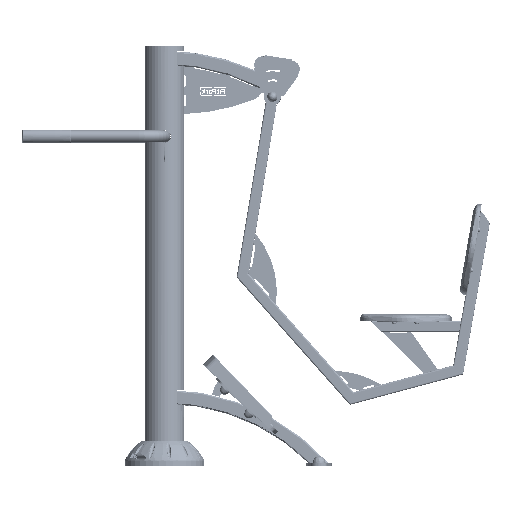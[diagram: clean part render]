
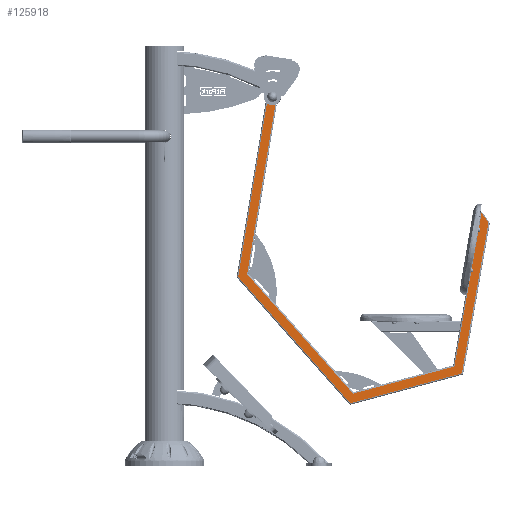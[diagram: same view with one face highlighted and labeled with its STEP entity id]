
A CAD part, top view. The second image highlights one B-rep face of the part: STEP entity #125918.
In plain terms, the highlighted planar face has unit normal (0, 0, 1).
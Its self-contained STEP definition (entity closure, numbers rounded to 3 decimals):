
#432 = EDGE_CURVE ( 'NONE', #122746, #137114, #36682, .T. ) ;
#1352 = ORIENTED_EDGE ( 'NONE', *, *, #70114, .F. ) ;
#5953 = DIRECTION ( 'NONE',  ( 0.574, -0.819, 0. ) ) ;
#6145 = ORIENTED_EDGE ( 'NONE', *, *, #183035, .T. ) ;
#10568 = CARTESIAN_POINT ( 'NONE',  ( 769.404, 135.216, 40. ) ) ;
#15678 = EDGE_CURVE ( 'NONE', #131311, #93771, #146992, .T. ) ;
#16449 = VECTOR ( 'NONE', #54313, 1000. ) ;
#17708 = VECTOR ( 'NONE', #78390, 1000. ) ;
#22450 = VERTEX_POINT ( 'NONE', #66280 ) ;
#22813 = VERTEX_POINT ( 'NONE', #142398 ) ;
#24603 = LINE ( 'NONE', #82799, #102516 ) ;
#25028 = EDGE_CURVE ( 'NONE', #115282, #122746, #80277, .T. ) ;
#27010 = DIRECTION ( 'NONE',  ( 0., 0., -1. ) ) ;
#28665 = CARTESIAN_POINT ( 'NONE',  ( 752.213, 37.721, 40. ) ) ;
#34532 = EDGE_CURVE ( 'NONE', #43307, #115282, #124682, .T. ) ;
#36682 = CIRCLE ( 'NONE', #158615, 30. ) ;
#39085 = CARTESIAN_POINT ( 'NONE',  ( 136.35, 1059.798, 40. ) ) ;
#39457 = DIRECTION ( 'NONE',  ( 1., 0., 0. ) ) ;
#40484 = CARTESIAN_POINT ( 'NONE',  ( 781.757, 32.512, 40. ) ) ;
#40943 = VECTOR ( 'NONE', #78873, 1000. ) ;
#41328 = DIRECTION ( 'NONE',  ( -1., 0., 0. ) ) ;
#43307 = VERTEX_POINT ( 'NONE', #48036 ) ;
#44408 = EDGE_LOOP ( 'NONE', ( #6145, #125350, #83490, #182128, #150460, #153349, #94523, #61790, #133545, #1352 ) ) ;
#47625 = LINE ( 'NONE', #119248, #139342 ) ;
#48036 = CARTESIAN_POINT ( 'NONE',  ( 401.687, 5.628, 40. ) ) ;
#53310 = CARTESIAN_POINT ( 'NONE',  ( 411.808, 39.398, 40. ) ) ;
#54313 = DIRECTION ( 'NONE',  ( -0.966, -0.259, 0. ) ) ;
#54684 = DIRECTION ( 'NONE',  ( 0., 0., 1. ) ) ;
#55720 = DIRECTION ( 'NONE',  ( 0.174, 0.985, 0. ) ) ;
#55841 = VERTEX_POINT ( 'NONE', #142872 ) ;
#59654 = EDGE_CURVE ( 'NONE', #22813, #137114, #24603, .T. ) ;
#59935 = CARTESIAN_POINT ( 'NONE',  ( 5.322, 451.538, 40. ) ) ;
#61790 = ORIENTED_EDGE ( 'NONE', *, *, #25028, .F. ) ;
#66275 = AXIS2_PLACEMENT_3D ( 'NONE', #157765, #27010, #41328 ) ;
#66280 = CARTESIAN_POINT ( 'NONE',  ( 795.629, 111.185, 40. ) ) ;
#68351 = EDGE_CURVE ( 'NONE', #93771, #131408, #151950, .T. ) ;
#69124 = VECTOR ( 'NONE', #86859, 1000. ) ;
#70114 = EDGE_CURVE ( 'NONE', #22450, #43307, #125952, .T. ) ;
#73100 = EDGE_CURVE ( 'NONE', #55841, #22813, #124952, .T. ) ;
#76581 = CARTESIAN_POINT ( 'NONE',  ( 861.114, 684.126, 40. ) ) ;
#78390 = DIRECTION ( 'NONE',  ( 0.163, 0.987, 0. ) ) ;
#78873 = DIRECTION ( 'NONE',  ( -0.664, 0.747, 0. ) ) ;
#80277 = LINE ( 'NONE', #179581, #17708 ) ;
#80921 = DIRECTION ( 'NONE',  ( 0.163, 0.987, 0. ) ) ;
#82799 = CARTESIAN_POINT ( 'NONE',  ( 37.257, 460.768, 40. ) ) ;
#83490 = ORIENTED_EDGE ( 'NONE', *, *, #15678, .F. ) ;
#86859 = DIRECTION ( 'NONE',  ( 0.174, 0.985, 0. ) ) ;
#93771 = VERTEX_POINT ( 'NONE', #123314 ) ;
#94412 = DIRECTION ( 'NONE',  ( -0.664, 0.747, 0. ) ) ;
#94523 = ORIENTED_EDGE ( 'NONE', *, *, #432, .F. ) ;
#101166 = CARTESIAN_POINT ( 'NONE',  ( 889.505, 643.58, 40. ) ) ;
#102516 = VECTOR ( 'NONE', #80921, 1000. ) ;
#107719 = DIRECTION ( 'NONE',  ( -0.966, -0.259, 0. ) ) ;
#110670 = CARTESIAN_POINT ( 'NONE',  ( 795.629, 111.185, 40. ) ) ;
#112903 = FACE_OUTER_BOUND ( 'NONE', #44408, .T. ) ;
#115282 = VERTEX_POINT ( 'NONE', #59935 ) ;
#119248 = CARTESIAN_POINT ( 'NONE',  ( 769.404, 135.216, 40. ) ) ;
#119908 = VECTOR ( 'NONE', #55720, 1000. ) ;
#122746 = VERTEX_POINT ( 'NONE', #123406 ) ;
#123314 = CARTESIAN_POINT ( 'NONE',  ( 865.17, 678.333, 40. ) ) ;
#123406 = CARTESIAN_POINT ( 'NONE',  ( 106.753, 1064.694, 40. ) ) ;
#124682 = LINE ( 'NONE', #168574, #40943 ) ;
#124952 = LINE ( 'NONE', #53310, #177742 ) ;
#125217 = EDGE_CURVE ( 'NONE', #131311, #55841, #47625, .T. ) ;
#125350 = ORIENTED_EDGE ( 'NONE', *, *, #68351, .F. ) ;
#125918 = ADVANCED_FACE ( 'NONE', ( #112903 ), #129137, .F. ) ;
#125952 = LINE ( 'NONE', #110670, #16449 ) ;
#129137 = PLANE ( 'NONE',  #66275 ) ;
#131311 = VERTEX_POINT ( 'NONE', #10568 ) ;
#131408 = VERTEX_POINT ( 'NONE', #101166 ) ;
#133545 = ORIENTED_EDGE ( 'NONE', *, *, #34532, .F. ) ;
#137114 = VERTEX_POINT ( 'NONE', #39085 ) ;
#139342 = VECTOR ( 'NONE', #107719, 1000. ) ;
#140640 = CARTESIAN_POINT ( 'NONE',  ( 125.792, 1087.878, 40. ) ) ;
#142398 = CARTESIAN_POINT ( 'NONE',  ( 37.257, 460.768, 40. ) ) ;
#142872 = CARTESIAN_POINT ( 'NONE',  ( 411.808, 39.398, 40. ) ) ;
#146992 = LINE ( 'NONE', #28665, #69124 ) ;
#150460 = ORIENTED_EDGE ( 'NONE', *, *, #73100, .T. ) ;
#151950 = LINE ( 'NONE', #76581, #153196 ) ;
#153196 = VECTOR ( 'NONE', #5953, 1000. ) ;
#153349 = ORIENTED_EDGE ( 'NONE', *, *, #59654, .T. ) ;
#157765 = CARTESIAN_POINT ( 'NONE',  ( 752.213, 37.721, 40. ) ) ;
#158615 = AXIS2_PLACEMENT_3D ( 'NONE', #140640, #54684, #39457 ) ;
#168574 = CARTESIAN_POINT ( 'NONE',  ( 401.687, 5.628, 40. ) ) ;
#171243 = LINE ( 'NONE', #40484, #119908 ) ;
#177742 = VECTOR ( 'NONE', #94412, 1000. ) ;
#179581 = CARTESIAN_POINT ( 'NONE',  ( 5.322, 451.538, 40. ) ) ;
#182128 = ORIENTED_EDGE ( 'NONE', *, *, #125217, .T. ) ;
#183035 = EDGE_CURVE ( 'NONE', #22450, #131408, #171243, .T. ) ;
